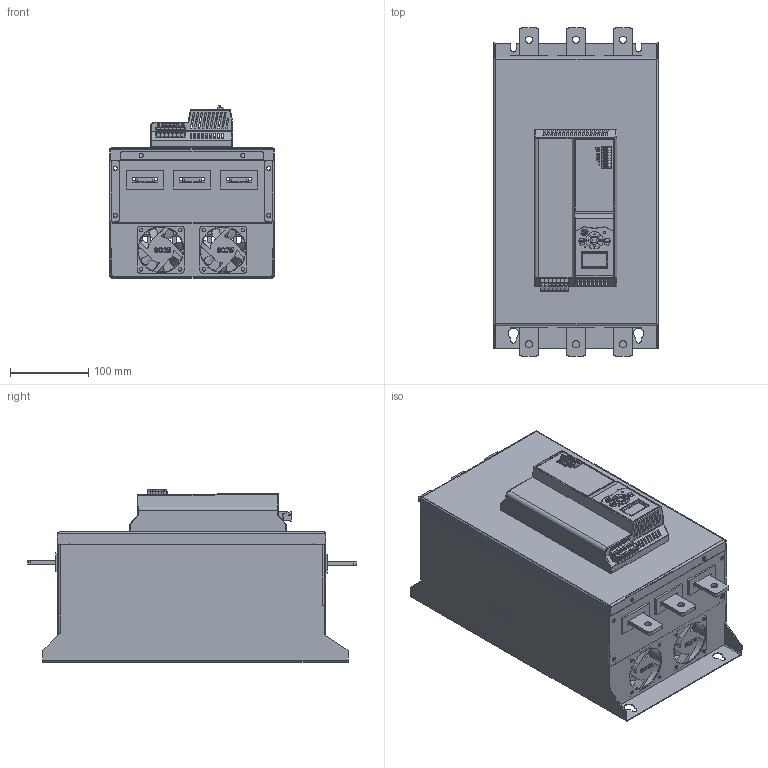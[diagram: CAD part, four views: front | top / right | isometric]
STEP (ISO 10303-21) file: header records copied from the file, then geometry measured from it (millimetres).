
FILE_DESCRIPTION (( 'STEP AP203' ), '1' );
FILE_NAME ('SBIM-115_230-04.STEP', '2025-02-25T16:09:26', ( '' ), ( '' ), 'SwSTEP 2.0', 'SolidWorks 2021', '' );
FILE_SCHEMA (( 'CONFIG_CONTROL_DESIGN' ));
Length unit declared in the file: millimetre
Products named in the file (39): Êîííåêòîð 2540001; Êðûøêà êàðêàñà 8800-90-115-0008; 抔樦憵 3D-00001; Êëåììíàÿ êîëîäêà 8800-508 Ï_7P; 扱闀罻 6-6-80001; Êðûøêà 8800-90-115-0001; Êàðêàñ êîðïóñà 8800-90-115-0000; Ïàíåëü óïðàâëåíèÿ; 抔樦憵 PL2D5B-5-508-05; 扻豵鵨 膰臇樏襜譇 2540001; Êíîïêà ñòîïà; Øèíà ââîäíàÿ 8800-90-115-0110; Êðûëü÷àòêà âåíòèëÿòîðà 6025; Ëèöåâàÿ ôàëüøïàíåëü 18-37; Êëåììíàÿ êîëîäêà 3D5_60001; Øèíà âûâîäíàÿ 8800-90-115-0111; Ðàìà îñíîâíàÿ 8800-90-115-0003; Èçîëÿòîð øèííûé; Îñíîâà ïëàòû 8800-18-37-PCB-2; Ðàìà ïëàò óïðàâëåíèÿ Ò 8800-90-115-0009; ﾄ濵 8800-90-115-0002; Ëèöåâàÿ ïàíåëü; Ïëàòà ïàíåëè óïðàëåíèÿ 8800-18-37-PCB-200; SBIM-115_230-04; Íîæêà êîííåêòîðà 2540001; Âåíòèëÿòîð 6025; Óçåë ñèëîâîé 8800-90-115-0004; Äèñïëåé 8800-11 12864COG; 抔樦憵 3D5-00001; ﾒ瀨瑣ⅱ 3-10001; Êíîïêà ïóñêà; Êîðïóñ âåíòèëÿòîðà 6025; ﾏ褊鶴 1D5-000001; RJ45; Îñíîâà ïëàòû 360-18-37-000_1-132470; 籐闃鼫錪 360-0001; Êîííåêòîð 254-0001; Âåðõíÿÿ ÷àñòü êîðïóñà 18-37; Ïëàòà ïèòàíèÿ 360-18-37-0001
Assembly tree (87 placements, depth 4):
  SBIM-115_230-04
    Êàðêàñ êîðïóñà 8800-90-115-0000
    Óçåë ñèëîâîé 8800-90-115-0004
      Øèíà âûâîäíàÿ 8800-90-115-0111  x3
      Øèíà ââîäíàÿ 8800-90-115-0110  x3
    Ðàìà îñíîâíàÿ 8800-90-115-0003
    Âåíòèëÿòîð 6025  x2
      Êîðïóñ âåíòèëÿòîðà 6025
      Êðûëü÷àòêà âåíòèëÿòîðà 6025
    ﾄ濵 8800-90-115-0002
    Êðûøêà 8800-90-115-0001
    Èçîëÿòîð øèííûé  x6
    Êðûøêà êàðêàñà 8800-90-115-0008
    Âåðõíÿÿ ÷àñòü êîðïóñà 18-37
    Ðàìà ïëàò óïðàâëåíèÿ Ò 8800-90-115-0009
    Ëèöåâàÿ ôàëüøïàíåëü 18-37
    Ïëàòà ïèòàíèÿ 360-18-37-0001
      Îñíîâà ïëàòû 360-18-37-000_1-132470
      ﾒ瀨瑣ⅱ 3-10001
      籐闃鼫錪 360-0001  x3
      Êëåììíàÿ êîëîäêà 8800-508 Ï_7P
      Êîííåêòîð 2540001  x10
        扻豵鵨 膰臇樏襜譇 2540001
        Íîæêà êîííåêòîðà 2540001
    Ïàíåëü óïðàâëåíèÿ
      Ëèöåâàÿ ïàíåëü
      Êíîïêà ñòîïà
      Êíîïêà ïóñêà
    Ïëàòà ïàíåëè óïðàëåíèÿ 8800-18-37-PCB-200
      Îñíîâà ïëàòû 8800-18-37-PCB-2
      Äèñïëåé 8800-11 12864COG
      扱闀罻 6-6-80001  x8
      Êëåììíàÿ êîëîäêà 3D5_60001
        抔樦憵 3D5-00001  x4
        抔樦憵 3D-00001  x3
        ﾏ褊鶴 1D5-000001
      RJ45
      Êîííåêòîð 254-0001  x10
    抔樦憵 PL2D5B-5-508-05  x7
Bounding box: 210.5 x 419.18 x 219.9 mm (x, y, z)
Volume: 875628.2 mm3; surface area: 1111383 mm2
Topology: 99 solids, 99 shells, 5517 faces, 14273 edges, 9284 vertices
Faces by surface type: plane 3800, cylinder 1271, bspline 381, torus 47, cone 18
Entity records: 127308 total; most frequent: CARTESIAN_POINT 39038, ORIENTED_EDGE 17720, DIRECTION 15717, EDGE_CURVE 8860, LINE 6653, VECTOR 6653, VERTEX_POINT 5784, AXIS2_PLACEMENT_3D 4532
